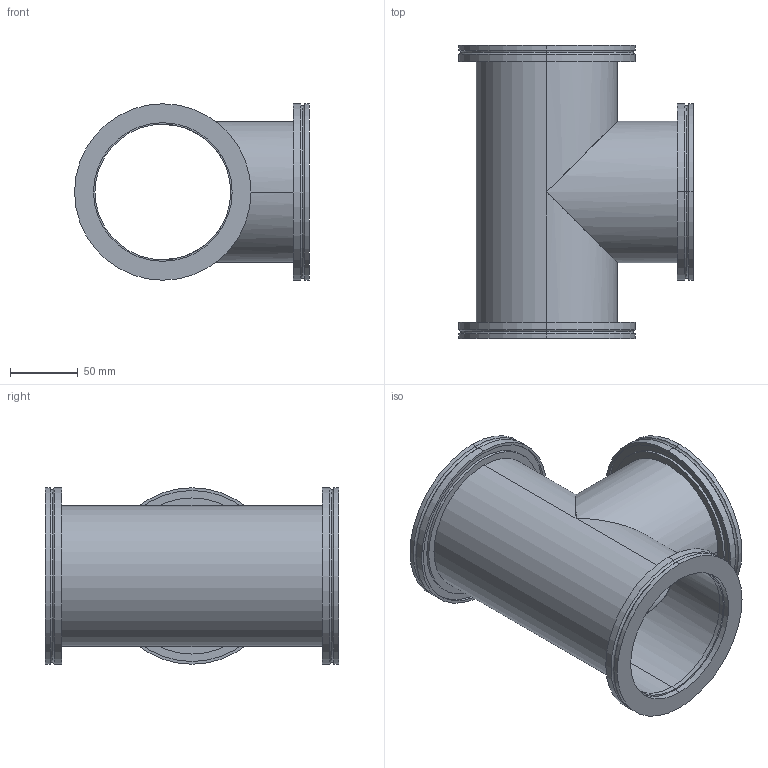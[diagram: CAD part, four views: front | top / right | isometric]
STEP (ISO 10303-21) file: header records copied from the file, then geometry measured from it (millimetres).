
FILE_DESCRIPTION (( 'STEP AP214' ), '1' );
FILE_NAME ('W4TS100.STEP', '2020-10-12T14:09:05', ( '' ), ( '' ), 'SwSTEP 2.0', 'SolidWorks 2020', '' );
FILE_SCHEMA (( 'AUTOMOTIVE_DESIGN' ));
Length unit declared in the file: millimetre
Products named in the file (1): W4TS100
Bounding box: 173 x 216 x 130 mm (x, y, z)
Volume: 316766 mm3; surface area: 219692.4 mm2
Topology: 5 solids, 5 shells, 89 faces, 184 edges, 114 vertices
Faces by surface type: cylinder 52, plane 25, torus 12
Entity records: 2478 total; most frequent: DIRECTION 466, CARTESIAN_POINT 424, ORIENTED_EDGE 368, AXIS2_PLACEMENT_3D 204, EDGE_CURVE 184, VERTEX_POINT 114, CIRCLE 114, EDGE_LOOP 110
